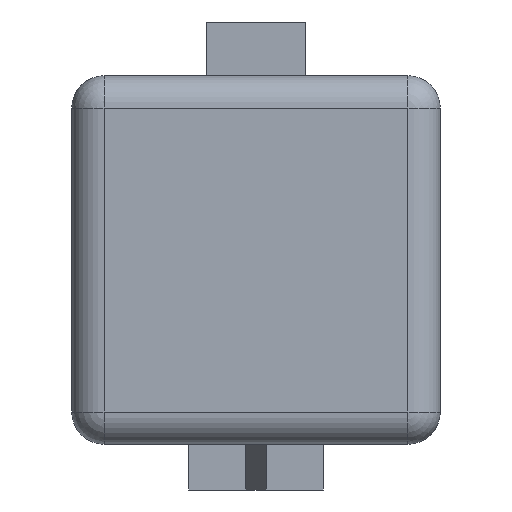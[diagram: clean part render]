
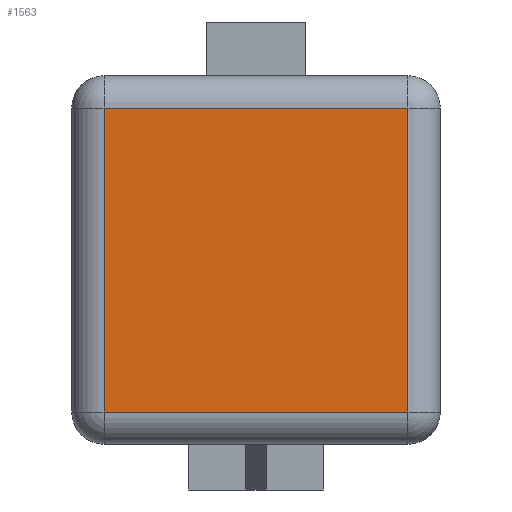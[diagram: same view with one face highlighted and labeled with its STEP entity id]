
A CAD part, front view. The second image highlights one B-rep face of the part: STEP entity #1563.
In plain terms, the highlighted planar face has unit normal (0, -1, 0).
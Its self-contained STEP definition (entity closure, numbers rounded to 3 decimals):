
#304 = VERTEX_POINT ( 'NONE', #801 ) ;
#332 = VECTOR ( 'NONE', #1531, 1000. ) ;
#518 = ORIENTED_EDGE ( 'NONE', *, *, #1060, .T. ) ;
#557 = AXIS2_PLACEMENT_3D ( 'NONE', #2484, #2384, #2405 ) ;
#729 = EDGE_CURVE ( 'NONE', #1605, #1134, #841, .T. ) ;
#738 = LINE ( 'NONE', #2190, #2560 ) ;
#760 = EDGE_CURVE ( 'NONE', #1134, #2011, #1274, .T. ) ;
#776 = CARTESIAN_POINT ( 'NONE',  ( 1.2, 0., 1.2 ) ) ;
#801 = CARTESIAN_POINT ( 'NONE',  ( 12.5, 0., 1.2 ) ) ;
#810 = ORIENTED_EDGE ( 'NONE', *, *, #729, .T. ) ;
#841 = LINE ( 'NONE', #1483, #1705 ) ;
#1060 = EDGE_CURVE ( 'NONE', #2011, #304, #1570, .T. ) ;
#1134 = VERTEX_POINT ( 'NONE', #2080 ) ;
#1159 = ORIENTED_EDGE ( 'NONE', *, *, #1218, .T. ) ;
#1218 = EDGE_CURVE ( 'NONE', #304, #1605, #738, .T. ) ;
#1274 = LINE ( 'NONE', #1508, #332 ) ;
#1478 = DIRECTION ( 'NONE',  ( -1., 0., 0. ) ) ;
#1483 = CARTESIAN_POINT ( 'NONE',  ( 0., 0., 12.5 ) ) ;
#1508 = CARTESIAN_POINT ( 'NONE',  ( 1.2, 0., 13.7 ) ) ;
#1531 = DIRECTION ( 'NONE',  ( 0., 0., -1. ) ) ;
#1563 = ADVANCED_FACE ( 'NONE', ( #2068 ), #2462, .F. ) ;
#1570 = LINE ( 'NONE', #1935, #2581 ) ;
#1605 = VERTEX_POINT ( 'NONE', #2436 ) ;
#1705 = VECTOR ( 'NONE', #1478, 1000. ) ;
#1860 = EDGE_LOOP ( 'NONE', ( #2544, #518, #1159, #810 ) ) ;
#1935 = CARTESIAN_POINT ( 'NONE',  ( 13.7, 0., 1.2 ) ) ;
#1966 = DIRECTION ( 'NONE',  ( 1., 0., 0. ) ) ;
#2011 = VERTEX_POINT ( 'NONE', #776 ) ;
#2068 = FACE_OUTER_BOUND ( 'NONE', #1860, .T. ) ;
#2080 = CARTESIAN_POINT ( 'NONE',  ( 1.2, 0., 12.5 ) ) ;
#2190 = CARTESIAN_POINT ( 'NONE',  ( 12.5, 0., 13.7 ) ) ;
#2194 = DIRECTION ( 'NONE',  ( 0., 0., 1. ) ) ;
#2384 = DIRECTION ( 'NONE',  ( 0., 1., 0. ) ) ;
#2405 = DIRECTION ( 'NONE',  ( 0., 0., 1. ) ) ;
#2436 = CARTESIAN_POINT ( 'NONE',  ( 12.5, 0., 12.5 ) ) ;
#2462 = PLANE ( 'NONE',  #557 ) ;
#2484 = CARTESIAN_POINT ( 'NONE',  ( 0., 0., 13.7 ) ) ;
#2544 = ORIENTED_EDGE ( 'NONE', *, *, #760, .T. ) ;
#2560 = VECTOR ( 'NONE', #2194, 1000. ) ;
#2581 = VECTOR ( 'NONE', #1966, 1000. ) ;
